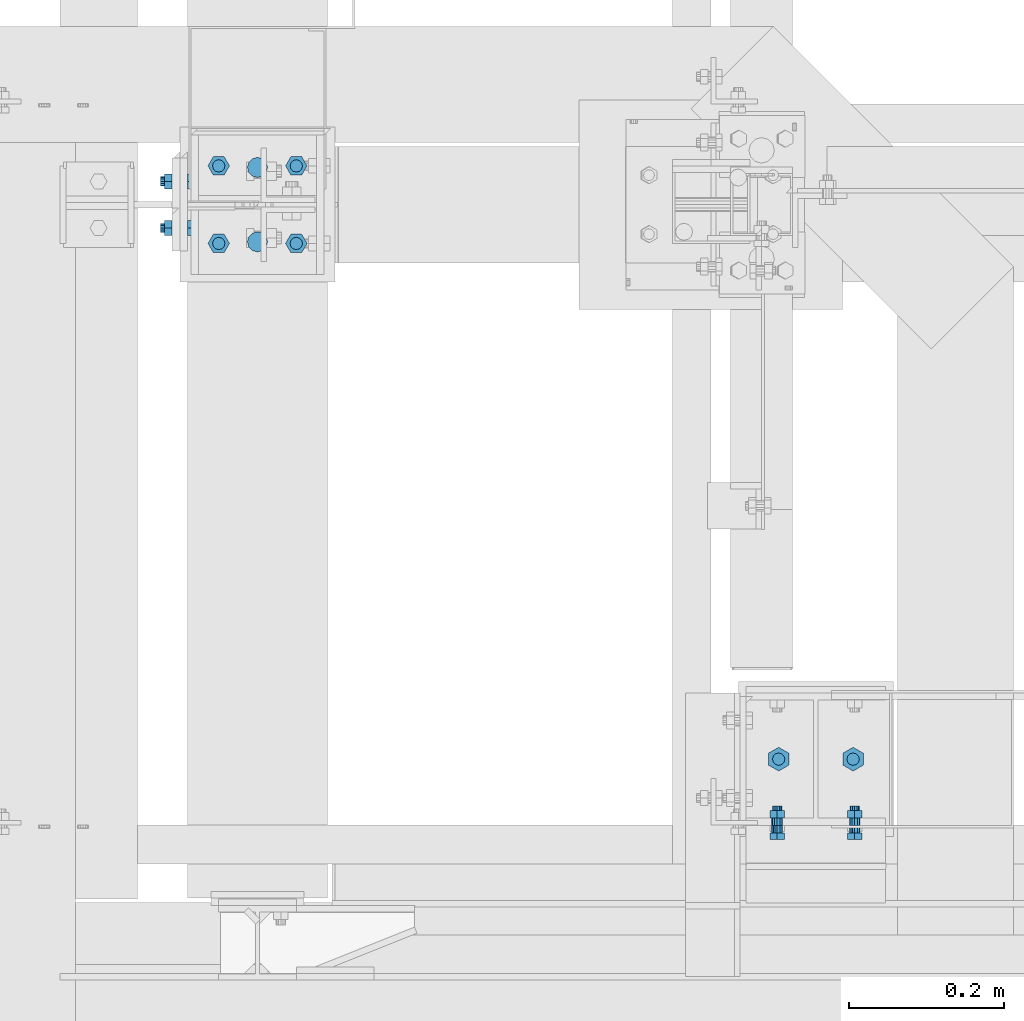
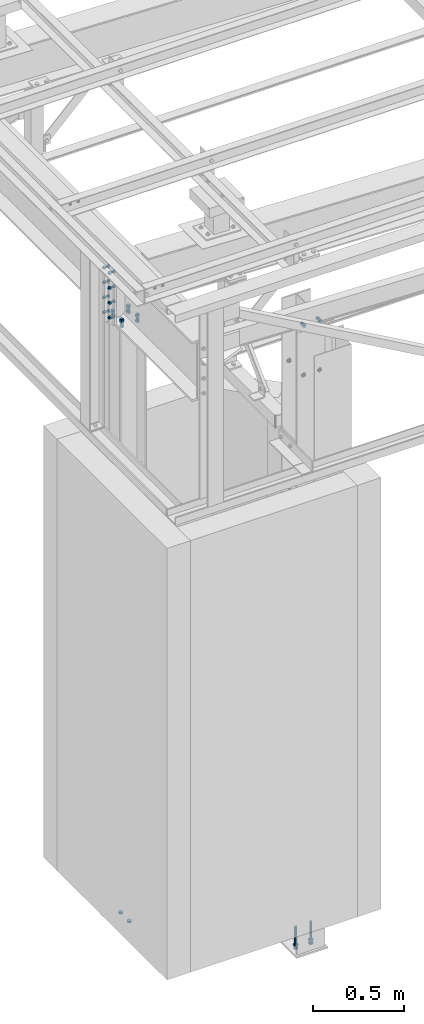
# One storey, part 2 of 3134: 5 mechanical fasteners, 3 elements without a shape of their own.
"""IFC2X3 building model written with IfcOpenShell, lengths in millimetres."""

from ifc_helpers import new_model, si_unit, frame, origin_with_axes, place, context, subcontext, project, spatial, faceted_brep, source, transform, mapped, material, type_object, element, aggregate, save


model = new_model("IFC2X3")

# Units and contexts
model_context = context("Model", 3, precision=1e-05, world=origin_with_axes())
body_context = subcontext(model_context, "Body", "Model", "MODEL_VIEW")
ifc_project = project(units=[si_unit("LENGTHUNIT", "METRE", prefix="MILLI"), si_unit("AREAUNIT", "SQUARE_METRE"), si_unit("VOLUMEUNIT", "CUBIC_METRE"), si_unit("MASSUNIT", "GRAM", prefix="KILO"), si_unit("TIMEUNIT", "SECOND"), si_unit("PLANEANGLEUNIT", "RADIAN"), si_unit("SOLIDANGLEUNIT", "STERADIAN"), si_unit("THERMODYNAMICTEMPERATUREUNIT", "DEGREE_CELSIUS"), si_unit("LUMINOUSINTENSITYUNIT", "LUMEN")], contexts=[model_context])

# Site, building, storey
site_placement = place(None, origin_with_axes())
site = spatial("IfcSite", under=ifc_project, at=site_placement, CompositionType="ELEMENT")
building_placement = place(site_placement, origin_with_axes())
building = spatial("IfcBuilding", under=site, at=building_placement, Name="Undefined", CompositionType="ELEMENT")
storey_placement = place(building_placement, origin_with_axes())
storey = spatial("IfcBuildingStorey", under=building, at=storey_placement, Name="Undefined", CompositionType="ELEMENT", Elevation=0.0)

# Assembly, mechanical fastener
assembly_1_placement = place(storey_placement, origin_with_axes())
assembly_1 = element("IfcElementAssembly", 1, at=assembly_1_placement, inside=storey, Name="HEA180", AssemblyPlace="NOTDEFINED", PredefinedType="RIGID_FRAME")
ifc_material_1 = material(Name="8.8")
mechanical_fastener_type = type_object("IfcMechanicalFastenerType", Name="Bolt assembly")
shared_shape_1 = source(origin_with_axes(), body_context, "Body", "Brep", [
    faceted_brep([(13.0, 0.0, 0.0), (11.2583302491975, 0.0, 6.50000000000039), (6.49999999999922, 0.0, 11.2583302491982), (-1.34723677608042e-12, 0.0, 13.0), (-6.50000000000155, 0.0, 11.2583302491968), (-11.2583302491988, 0.0, 6.49999999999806), (-13.0, 0.0, -2.69447355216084e-12), (-11.2583302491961, 0.0, -6.50000000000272), (-6.4999999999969, 0.0, -11.2583302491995), (4.02727742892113e-12, 0.0, -13.0), (6.50000000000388, 0.0, -11.2583302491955), (11.2583302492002, 0.0, -6.49999999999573), (11.2583302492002, 12.1, -6.49999999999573), (6.50000000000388, 12.1, -11.2583302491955), (4.02727742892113e-12, 12.1, -13.0), (-6.4999999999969, 12.1, -11.2583302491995), (-11.2583302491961, 12.1, -6.50000000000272), (-13.0, 12.1, -2.69447355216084e-12), (-11.2583302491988, 12.1, 6.49999999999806), (-6.50000000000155, 12.1, 11.2583302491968), (-1.34723677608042e-12, 12.1, 13.0), (6.49999999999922, 12.1, 11.2583302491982), (11.2583302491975, 12.1, 6.50000000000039), (13.0, 12.1, 0.0)], [[[0, 1, 2, 3, 4, 5, 6, 7, 8, 9, 10, 11]], [[12, 13, 14, 15, 16, 17, 18, 19, 20, 21, 22, 23]], [[0, 23, 22, 1]], [[1, 22, 21, 2]], [[2, 21, 20, 3]], [[3, 20, 19, 4]], [[4, 19, 18, 5]], [[5, 18, 17, 6]], [[6, 17, 16, 7]], [[7, 16, 15, 8]], [[8, 15, 14, 9]], [[9, 14, 13, 10]], [[10, 13, 12, 11]], [[11, 12, 23, 0]]]),
])
mechanical_fastener_1_placement = place(assembly_1_placement, frame((0.0, 10930.0, -400.0), z_axis=(0.0, 1.0, 0.0), x_axis=(-1.0, 0.0, 0.0)))
mechanical_fastener_1 = element("IfcMechanicalFastener", 2, at=mechanical_fastener_1_placement, type_object=mechanical_fastener_type, material=ifc_material_1, Name="Bolt assembly", NominalDiameter=24.0, NominalLength=12.0, context=body_context, shape_type="MappedRepresentation", body=[
    mapped(shared_shape_1, transform((0.0, 0.0, -48.0))),
    mapped(shared_shape_1, transform((0.0, 0.0, 48.0))),
])

assembly_2_placement = place(storey_placement, origin_with_axes())
assembly_2 = element("IfcElementAssembly", 3, at=assembly_2_placement, inside=storey, Name="HEA180", AssemblyPlace="NOTDEFINED", PredefinedType="RIGID_FRAME")
shared_shape_2 = source(origin_with_axes(), body_context, "Body", "Brep", [
    faceted_brep([(10.9696551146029, -18.0, 0.0), (5.48482755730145, -18.0, 9.5), (-5.48482755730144, -18.0, 9.5), (-10.9696551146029, -18.0, 1.34339530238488e-15), (-5.48482755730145, -18.0, -9.5), (5.48482755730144, -18.0, -9.50000000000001), (5.48482755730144, -10.0, -9.50000000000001), (-5.48482755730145, -10.0, -9.5), (-10.9696551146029, -10.0, 1.34339530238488e-15), (-5.48482755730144, -10.0, 9.5), (5.48482755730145, -10.0, 9.5), (10.9696551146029, -10.0, 0.0), (6.0, -10.0, 0.0), (5.19615242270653, -10.0, 3.00000000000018), (2.99999999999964, -10.0, 5.19615242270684), (-6.21801588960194e-13, -10.0, 6.0), (-3.00000000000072, -10.0, 5.19615242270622), (-5.19615242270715, -10.0, 2.9999999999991), (-6.0, -10.0, -1.24360317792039e-12), (-5.19615242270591, -10.0, -3.00000000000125), (-2.99999999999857, -10.0, -5.19615242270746), (1.85874342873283e-12, -10.0, -6.0), (3.00000000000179, -10.0, -5.1961524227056), (5.19615242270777, -10.0, -2.99999999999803), (5.19615242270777, 24.9999999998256, -2.99999999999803), (3.00000000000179, 24.9999999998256, -5.1961524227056), (1.85874342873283e-12, 24.9999999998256, -6.0), (-2.99999999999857, 24.9999999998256, -5.19615242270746), (-5.19615242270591, 24.9999999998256, -3.00000000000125), (-6.0, 24.9999999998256, -1.24360317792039e-12), (-5.19615242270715, 24.9999999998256, 2.9999999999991), (-3.00000000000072, 24.9999999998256, 5.19615242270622), (-6.21801588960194e-13, 24.9999999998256, 6.0), (2.99999999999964, 24.9999999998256, 5.19615242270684), (5.19615242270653, 24.9999999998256, 3.00000000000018), (6.0, 24.9999999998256, 0.0), (10.9696551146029, 9.5, 0.0), (5.48482755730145, 9.5, 9.5), (-5.48482755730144, 9.5, 9.5), (-10.9696551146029, 9.5, 1.34339530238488e-15), (-5.48482755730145, 9.5, -9.5), (5.48482755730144, 9.5, -9.50000000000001), (5.48482755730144, 19.5, -9.50000000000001), (-5.48482755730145, 19.5, -9.5), (-10.9696551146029, 19.5, 1.34339530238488e-15), (-5.48482755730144, 19.5, 9.5), (5.48482755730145, 19.5, 9.5), (10.9696551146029, 19.5, 0.0)], [[[0, 1, 2, 3, 4, 5]], [[6, 7, 8, 9, 10, 11]], [[0, 11, 10, 1]], [[1, 10, 9, 2]], [[2, 9, 8, 3]], [[3, 8, 7, 4]], [[4, 7, 6, 5]], [[5, 6, 11, 0]], [[12, 13, 14, 15, 16, 17, 18, 19, 20, 21, 22, 23]], [[24, 25, 26, 27, 28, 29, 30, 31, 32, 33, 34, 35]], [[12, 35, 34, 13]], [[13, 34, 33, 14]], [[14, 33, 32, 15]], [[15, 32, 31, 16]], [[16, 31, 30, 17]], [[17, 30, 29, 18]], [[18, 29, 28, 19]], [[19, 28, 27, 20]], [[20, 27, 26, 21]], [[21, 26, 25, 22]], [[22, 25, 24, 23]], [[23, 24, 35, 12]], [[36, 37, 38, 39, 40, 41]], [[42, 43, 44, 45, 46, 47]], [[36, 47, 46, 37]], [[37, 46, 45, 38]], [[38, 45, 44, 39]], [[39, 44, 43, 40]], [[40, 43, 42, 41]], [[41, 42, 47, 36]]]),
    faceted_brep([(14.0, -9.9, 0.0), (13.4671567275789, -9.9, 2.6787840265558), (11.9497474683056, -9.9, 4.94974746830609), (9.67878402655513, -9.9, 6.46715672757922), (-7.00000000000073, -9.9, 7.0), (-10.5000000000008, -9.9, 6.06217782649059), (-13.0621778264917, -9.9, 3.49999999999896), (-14.0, -9.9, -1.45087037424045e-12), (-13.0621778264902, -9.9, -3.50000000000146), (-10.4999999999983, -9.9, -6.06217782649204), (-6.99999999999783, -9.9, -7.0), (7.00000000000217, -9.9, -7.0), (10.5000000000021, -9.9, -6.06217782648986), (13.0621778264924, -9.9, -3.4999999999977), (14.0, 0.0999989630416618, 0.0), (13.0621778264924, 0.0999989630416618, -3.4999999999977), (10.5000000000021, 0.0999989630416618, -6.06217782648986), (7.00000000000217, 0.0999989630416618, -7.0), (-6.99999999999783, 0.0999989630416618, -7.0), (-10.4999999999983, 0.0999989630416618, -6.06217782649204), (-13.0621778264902, 0.0999989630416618, -3.50000000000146), (-14.0, 0.0999989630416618, -1.45087037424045e-12), (-13.0621778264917, 0.0999989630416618, 3.49999999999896), (-10.5000000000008, 0.0999989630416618, 6.06217782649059), (-7.00000000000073, 0.0999989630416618, 7.0), (9.67878402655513, 0.0999989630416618, 6.46715672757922), (11.9497474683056, 0.0999989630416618, 4.94974746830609), (13.4671567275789, 0.0999989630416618, 2.6787840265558), (7.0, -0.1, 0.0), (6.06217782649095, -0.1, 3.50000000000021), (3.49999999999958, -0.1, 6.06217782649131), (-7.25435187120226e-13, -0.1, 7.0), (-3.50000000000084, -0.1, 6.06217782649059), (-6.06217782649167, -0.1, 3.49999999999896), (-7.0, -0.1, -1.45087037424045e-12), (-6.06217782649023, -0.1, -3.50000000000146), (-3.49999999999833, -0.1, -6.06217782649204), (2.1685340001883e-12, -0.1, -7.0), (3.50000000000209, -0.1, -6.06217782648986), (6.0621778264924, -0.1, -3.4999999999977), (6.0621778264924, 9.5, -3.4999999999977), (3.50000000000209, 9.5, -6.06217782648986), (2.1685340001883e-12, 9.5, -7.0), (-3.49999999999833, 9.5, -6.06217782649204), (-6.06217782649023, 9.5, -3.50000000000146), (-7.0, 9.5, -1.45087037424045e-12), (-6.06217782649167, 9.5, 3.49999999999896), (-3.50000000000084, 9.5, 6.06217782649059), (-7.25435187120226e-13, 9.5, 7.0), (3.49999999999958, 9.5, 6.06217782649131), (6.06217782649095, 9.5, 3.50000000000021), (7.0, 9.5, 0.0)], [[[0, 1, 2, 3, 4, 5, 6, 7, 8, 9, 10, 11, 12, 13]], [[14, 15, 16, 17, 18, 19, 20, 21, 22, 23, 24, 25, 26, 27]], [[0, 14, 27, 1]], [[1, 27, 26, 2]], [[2, 26, 25, 3]], [[3, 25, 24, 4]], [[4, 24, 23, 5]], [[5, 23, 22, 6]], [[6, 22, 21, 7]], [[7, 21, 20, 8]], [[8, 20, 19, 9]], [[9, 19, 18, 10]], [[10, 18, 17, 11]], [[11, 17, 16, 12]], [[12, 16, 15, 13]], [[13, 15, 14, 0]], [[28, 29, 30, 31, 32, 33, 34, 35, 36, 37, 38, 39]], [[40, 41, 42, 43, 44, 45, 46, 47, 48, 49, 50, 51]], [[28, 51, 50, 29]], [[29, 50, 49, 30]], [[30, 49, 48, 31]], [[31, 48, 47, 32]], [[32, 47, 46, 33]], [[33, 46, 45, 34]], [[34, 45, 44, 35]], [[35, 44, 43, 36]], [[36, 43, 42, 37]], [[37, 42, 41, 38]], [[38, 41, 40, 39]], [[39, 40, 51, 28]]]),
])
mechanical_fastener_2_placement = place(assembly_2_placement, frame((720.0, 10129.5, 3834.68519646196), z_axis=(-1.0, 0.0, 0.0), x_axis=(0.0, 0.0, 1.0)))
mechanical_fastener_2 = element("IfcMechanicalFastener", 4, at=mechanical_fastener_2_placement, type_object=mechanical_fastener_type, material=ifc_material_1, Name="Bolt assembly", NominalDiameter=12.0, NominalLength=35.0, context=body_context, shape_type="MappedRepresentation", body=[
    mapped(shared_shape_2, transform((0.0, 0.0, -50.0))),
    mapped(shared_shape_2, transform((0.0, 0.0, 50.0))),
])

assembly_3_placement = place(storey_placement, origin_with_axes())
assembly_3 = element("IfcElementAssembly", 5, at=assembly_3_placement, inside=storey, Name="IPE400", AssemblyPlace="NOTDEFINED", PredefinedType="RIGID_FRAME")
shared_shape_3 = source(origin_with_axes(), body_context, "Body", "Brep", [
    faceted_brep([(10.9696551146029, -18.0, 0.0), (5.48482755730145, -18.0, 9.5), (-5.48482755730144, -18.0, 9.5), (-10.9696551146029, -18.0, 1.34339530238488e-15), (-5.48482755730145, -18.0, -9.5), (5.48482755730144, -18.0, -9.50000000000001), (5.48482755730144, -10.0, -9.50000000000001), (-5.48482755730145, -10.0, -9.5), (-10.9696551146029, -10.0, 1.34339530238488e-15), (-5.48482755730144, -10.0, 9.5), (5.48482755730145, -10.0, 9.5), (10.9696551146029, -10.0, 0.0), (6.0, -10.0, 0.0), (5.19615242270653, -10.0, 3.00000000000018), (2.99999999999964, -10.0, 5.19615242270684), (-6.21801588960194e-13, -10.0, 6.0), (-3.00000000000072, -10.0, 5.19615242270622), (-5.19615242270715, -10.0, 2.9999999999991), (-6.0, -10.0, -1.24360317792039e-12), (-5.19615242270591, -10.0, -3.00000000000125), (-2.99999999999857, -10.0, -5.19615242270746), (1.85874342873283e-12, -10.0, -6.0), (3.00000000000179, -10.0, -5.1961524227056), (5.19615242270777, -10.0, -2.99999999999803), (5.19615242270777, 24.9999999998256, -2.99999999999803), (3.00000000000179, 24.9999999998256, -5.1961524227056), (1.85874342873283e-12, 24.9999999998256, -6.0), (-2.99999999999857, 24.9999999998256, -5.19615242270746), (-5.19615242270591, 24.9999999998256, -3.00000000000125), (-6.0, 24.9999999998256, -1.24360317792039e-12), (-5.19615242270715, 24.9999999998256, 2.9999999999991), (-3.00000000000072, 24.9999999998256, 5.19615242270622), (-6.21801588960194e-13, 24.9999999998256, 6.0), (2.99999999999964, 24.9999999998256, 5.19615242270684), (5.19615242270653, 24.9999999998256, 3.00000000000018), (6.0, 24.9999999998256, 0.0), (10.9696551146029, 10.0, 0.0), (5.48482755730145, 10.0, 9.5), (-5.48482755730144, 10.0, 9.5), (-10.9696551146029, 10.0, 1.34339530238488e-15), (-5.48482755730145, 10.0, -9.5), (5.48482755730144, 10.0, -9.50000000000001), (5.48482755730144, 20.0, -9.50000000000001), (-5.48482755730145, 20.0, -9.5), (-10.9696551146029, 20.0, 1.34339530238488e-15), (-5.48482755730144, 20.0, 9.5), (5.48482755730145, 20.0, 9.5), (10.9696551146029, 20.0, 0.0)], [[[0, 1, 2, 3, 4, 5]], [[6, 7, 8, 9, 10, 11]], [[0, 11, 10, 1]], [[1, 10, 9, 2]], [[2, 9, 8, 3]], [[3, 8, 7, 4]], [[4, 7, 6, 5]], [[5, 6, 11, 0]], [[12, 13, 14, 15, 16, 17, 18, 19, 20, 21, 22, 23]], [[24, 25, 26, 27, 28, 29, 30, 31, 32, 33, 34, 35]], [[12, 35, 34, 13]], [[13, 34, 33, 14]], [[14, 33, 32, 15]], [[15, 32, 31, 16]], [[16, 31, 30, 17]], [[17, 30, 29, 18]], [[18, 29, 28, 19]], [[19, 28, 27, 20]], [[20, 27, 26, 21]], [[21, 26, 25, 22]], [[22, 25, 24, 23]], [[23, 24, 35, 12]], [[36, 37, 38, 39, 40, 41]], [[42, 43, 44, 45, 46, 47]], [[36, 47, 46, 37]], [[37, 46, 45, 38]], [[38, 45, 44, 39]], [[39, 44, 43, 40]], [[40, 43, 42, 41]], [[41, 42, 47, 36]]]),
    faceted_brep([(7.0, -0.1, 0.0), (6.06217782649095, -0.1, 3.50000000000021), (3.49999999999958, -0.1, 6.06217782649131), (-7.25435187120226e-13, -0.1, 7.0), (-3.50000000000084, -0.1, 6.06217782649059), (-6.06217782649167, -0.1, 3.49999999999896), (-7.0, -0.1, -1.45087037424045e-12), (-6.06217782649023, -0.1, -3.50000000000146), (-3.49999999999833, -0.1, -6.06217782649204), (2.1685340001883e-12, -0.1, -7.0), (3.50000000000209, -0.1, -6.06217782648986), (6.0621778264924, -0.1, -3.4999999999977), (6.0621778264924, 10.0, -3.4999999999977), (3.50000000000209, 10.0, -6.06217782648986), (2.1685340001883e-12, 10.0, -7.0), (-3.49999999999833, 10.0, -6.06217782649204), (-6.06217782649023, 10.0, -3.50000000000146), (-7.0, 10.0, -1.45087037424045e-12), (-6.06217782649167, 10.0, 3.49999999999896), (-3.50000000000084, 10.0, 6.06217782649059), (-7.25435187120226e-13, 10.0, 7.0), (3.49999999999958, 10.0, 6.06217782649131), (6.06217782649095, 10.0, 3.50000000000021), (7.0, 10.0, 0.0), (7.0, -9.89999913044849, 0.0), (6.06217782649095, -9.89999913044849, 3.50000000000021), (3.49999999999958, -9.89999913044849, 6.06217782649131), (-7.25435187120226e-13, -9.89999913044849, 7.0), (-3.50000000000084, -9.89999913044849, 6.06217782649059), (-6.06217782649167, -9.89999913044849, 3.49999999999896), (-7.0, -9.89999913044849, -1.45087037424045e-12), (-6.06217782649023, -9.89999913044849, -3.50000000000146), (-3.49999999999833, -9.89999913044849, -6.06217782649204), (2.1685340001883e-12, -9.89999913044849, -7.0), (3.50000000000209, -9.89999913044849, -6.06217782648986), (6.0621778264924, -9.89999913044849, -3.4999999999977), (6.0621778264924, 0.0999999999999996, -3.4999999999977), (3.50000000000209, 0.0999999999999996, -6.06217782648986), (2.1685340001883e-12, 0.0999999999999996, -7.0), (-3.49999999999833, 0.0999999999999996, -6.06217782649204), (-6.06217782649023, 0.0999999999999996, -3.50000000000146), (-7.0, 0.0999999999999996, -1.45087037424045e-12), (-6.06217782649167, 0.0999999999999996, 3.49999999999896), (-3.50000000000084, 0.0999999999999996, 6.06217782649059), (-7.25435187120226e-13, 0.0999999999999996, 7.0), (3.49999999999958, 0.0999999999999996, 6.06217782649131), (6.06217782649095, 0.0999999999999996, 3.50000000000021), (7.0, 0.0999999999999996, 0.0)], [[[0, 1, 2, 3, 4, 5, 6, 7, 8, 9, 10, 11]], [[12, 13, 14, 15, 16, 17, 18, 19, 20, 21, 22, 23]], [[0, 23, 22, 1]], [[1, 22, 21, 2]], [[2, 21, 20, 3]], [[3, 20, 19, 4]], [[4, 19, 18, 5]], [[5, 18, 17, 6]], [[6, 17, 16, 7]], [[7, 16, 15, 8]], [[8, 15, 14, 9]], [[9, 14, 13, 10]], [[10, 13, 12, 11]], [[11, 12, 23, 0]], [[24, 25, 26, 27, 28, 29, 30, 31, 32, 33, 34, 35]], [[36, 37, 38, 39, 40, 41, 42, 43, 44, 45, 46, 47]], [[24, 47, 46, 25]], [[25, 46, 45, 26]], [[26, 45, 44, 27]], [[27, 44, 43, 28]], [[28, 43, 42, 29]], [[29, 42, 41, 30]], [[30, 41, 40, 31]], [[31, 40, 39, 32]], [[32, 39, 38, 33]], [[33, 38, 37, 34]], [[34, 37, 36, 35]], [[35, 36, 47, 24]]]),
])
mechanical_fastener_3_placement = place(assembly_3_placement, frame((-100.0, 10930.0, 3990.0), z_axis=(0.0, 1.0, 0.0), x_axis=(0.0, 0.0, -1.0)))
mechanical_fastener_3 = element("IfcMechanicalFastener", 6, at=mechanical_fastener_3_placement, type_object=mechanical_fastener_type, material=ifc_material_1, Name="Bolt assembly", NominalDiameter=12.0, NominalLength=35.0, context=body_context, shape_type="MappedRepresentation", body=[
    mapped(shared_shape_3, transform((0.0, 4.54747350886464e-13, -30.0000000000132))),
    mapped(shared_shape_3, transform((100.0, 0.0, -30.0))),
    mapped(shared_shape_3, transform((200.0, 0.0, -30.0))),
    mapped(shared_shape_3, transform((300.0, 0.0, -30.0))),
    mapped(shared_shape_3, transform((0.0, 4.54747350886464e-13, 30.0000000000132))),
    mapped(shared_shape_3, transform((100.0, 0.0, 30.0))),
    mapped(shared_shape_3, transform((200.0, 0.0, 30.0))),
    mapped(shared_shape_3, transform((300.0, 0.0, 30.0))),
])
aggregate(assembly_3, [mechanical_fastener_3])

# Mechanical fastener
shared_shape_4 = source(origin_with_axes(), body_context, "Body", "Brep", [
    faceted_brep([(13.856406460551, -10.0, 0.0), (6.92820323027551, -10.0, 12.0), (-6.92820323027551, -10.0, 12.0), (-13.856406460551, -10.0, 1.69692038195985e-15), (-6.92820323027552, -10.0, -12.0), (6.9282032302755, -10.0, -12.0), (6.9282032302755, 0.0, -12.0), (-6.92820323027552, 0.0, -12.0), (-13.856406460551, 0.0, 1.69692038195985e-15), (-6.92820323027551, 0.0, 12.0), (6.92820323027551, 0.0, 12.0), (13.856406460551, 0.0, 0.0), (8.0, 0.0, 0.0), (6.92820323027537, 0.0, 4.00000000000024), (3.99999999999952, 0.0, 6.92820323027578), (-8.29068785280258e-13, 0.0, 8.0), (-4.00000000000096, 0.0, 6.92820323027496), (-6.9282032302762, 0.0, 3.99999999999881), (-8.0, 0.0, -1.65813757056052e-12), (-6.92820323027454, 0.0, -4.00000000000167), (-3.99999999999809, 0.0, -6.92820323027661), (2.47832457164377e-12, 0.0, -8.0), (4.00000000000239, 0.0, -6.92820323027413), (6.92820323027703, 0.0, -3.99999999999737), (6.92820323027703, 45.0, -3.99999999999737), (4.00000000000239, 45.0, -6.92820323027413), (2.47832457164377e-12, 45.0, -8.0), (-3.99999999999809, 45.0, -6.92820323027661), (-6.92820323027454, 45.0, -4.00000000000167), (-8.0, 45.0, -1.65813757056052e-12), (-6.9282032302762, 45.0, 3.99999999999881), (-4.00000000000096, 45.0, 6.92820323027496), (-8.29068785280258e-13, 45.0, 8.0), (3.99999999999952, 45.0, 6.92820323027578), (6.92820323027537, 45.0, 4.00000000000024), (8.0, 45.0, 0.0), (13.856406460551, 25.5, 0.0), (6.92820323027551, 25.5, 12.0), (-6.92820323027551, 25.5, 12.0), (-13.856406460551, 25.5, 1.69692038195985e-15), (-6.92820323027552, 25.5, -12.0), (6.9282032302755, 25.5, -12.0), (6.9282032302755, 38.5, -12.0), (-6.92820323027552, 38.5, -12.0), (-13.856406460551, 38.5, 1.69692038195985e-15), (-6.92820323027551, 38.5, 12.0), (6.92820323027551, 38.5, 12.0), (13.856406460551, 38.5, 0.0)], [[[0, 1, 2, 3, 4, 5]], [[6, 7, 8, 9, 10, 11]], [[0, 11, 10, 1]], [[1, 10, 9, 2]], [[2, 9, 8, 3]], [[3, 8, 7, 4]], [[4, 7, 6, 5]], [[5, 6, 11, 0]], [[12, 13, 14, 15, 16, 17, 18, 19, 20, 21, 22, 23]], [[24, 25, 26, 27, 28, 29, 30, 31, 32, 33, 34, 35]], [[12, 35, 34, 13]], [[13, 34, 33, 14]], [[14, 33, 32, 15]], [[15, 32, 31, 16]], [[16, 31, 30, 17]], [[17, 30, 29, 18]], [[18, 29, 28, 19]], [[19, 28, 27, 20]], [[20, 27, 26, 21]], [[21, 26, 25, 22]], [[22, 25, 24, 23]], [[23, 24, 35, 12]], [[36, 37, 38, 39, 40, 41]], [[42, 43, 44, 45, 46, 47]], [[36, 47, 46, 37]], [[37, 46, 45, 38]], [[38, 45, 44, 39]], [[39, 44, 43, 40]], [[40, 43, 42, 41]], [[41, 42, 47, 36]]]),
    faceted_brep([(9.0, 11.9, 0.0), (7.79422863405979, 11.9, 4.50000000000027), (4.49999999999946, 11.9, 7.79422863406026), (-9.3270238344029e-13, 11.9, 9.0), (-4.50000000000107, 11.9, 7.79422863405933), (-7.79422863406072, 11.9, 4.49999999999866), (-9.0, 11.9, -1.86540476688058e-12), (-7.79422863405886, 11.9, -4.50000000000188), (-4.49999999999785, 11.9, -7.79422863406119), (2.78811514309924e-12, 11.9, -9.0), (4.50000000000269, 11.9, -7.7942286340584), (7.79422863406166, 11.9, -4.49999999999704), (7.79422863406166, 25.5, -4.49999999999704), (4.50000000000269, 25.5, -7.7942286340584), (2.78811514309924e-12, 25.5, -9.0), (-4.49999999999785, 25.5, -7.79422863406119), (-7.79422863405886, 25.5, -4.50000000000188), (-9.0, 25.5, -1.86540476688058e-12), (-7.79422863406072, 25.5, 4.49999999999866), (-4.50000000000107, 25.5, 7.79422863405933), (-9.3270238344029e-13, 25.5, 9.0), (4.49999999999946, 25.5, 7.79422863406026), (7.79422863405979, 25.5, 4.50000000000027), (9.0, 25.5, 0.0), (9.0, 0.100000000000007, 0.0), (7.79422863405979, 0.100000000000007, 4.50000000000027), (4.49999999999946, 0.100000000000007, 7.79422863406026), (-9.3270238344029e-13, 0.100000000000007, 9.0), (-4.50000000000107, 0.100000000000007, 7.79422863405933), (-7.79422863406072, 0.100000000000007, 4.49999999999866), (-9.0, 0.100000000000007, -1.86540476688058e-12), (-7.79422863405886, 0.100000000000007, -4.50000000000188), (-4.49999999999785, 0.100000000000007, -7.79422863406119), (2.78811514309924e-12, 0.100000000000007, -9.0), (4.50000000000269, 0.100000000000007, -7.7942286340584), (7.79422863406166, 0.100000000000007, -4.49999999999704), (7.79422863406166, 12.1, -4.49999999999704), (4.50000000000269, 12.1, -7.7942286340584), (2.78811514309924e-12, 12.1, -9.0), (-4.49999999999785, 12.1, -7.79422863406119), (-7.79422863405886, 12.1, -4.50000000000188), (-9.0, 12.1, -1.86540476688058e-12), (-7.79422863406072, 12.1, 4.49999999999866), (-4.50000000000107, 12.1, 7.79422863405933), (-9.3270238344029e-13, 12.1, 9.0), (4.49999999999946, 12.1, 7.79422863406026), (7.79422863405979, 12.1, 4.50000000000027), (9.0, 12.1, 0.0)], [[[0, 1, 2, 3, 4, 5, 6, 7, 8, 9, 10, 11]], [[12, 13, 14, 15, 16, 17, 18, 19, 20, 21, 22, 23]], [[0, 23, 22, 1]], [[1, 22, 21, 2]], [[2, 21, 20, 3]], [[3, 20, 19, 4]], [[4, 19, 18, 5]], [[5, 18, 17, 6]], [[6, 17, 16, 7]], [[7, 16, 15, 8]], [[8, 15, 14, 9]], [[9, 14, 13, 10]], [[10, 13, 12, 11]], [[11, 12, 23, 0]], [[24, 25, 26, 27, 28, 29, 30, 31, 32, 33, 34, 35]], [[36, 37, 38, 39, 40, 41, 42, 43, 44, 45, 46, 47]], [[24, 47, 46, 25]], [[25, 46, 45, 26]], [[26, 45, 44, 27]], [[27, 44, 43, 28]], [[28, 43, 42, 29]], [[29, 42, 41, 30]], [[30, 41, 40, 31]], [[31, 40, 39, 32]], [[32, 39, 38, 33]], [[33, 38, 37, 34]], [[34, 37, 36, 35]], [[35, 36, 47, 24]]]),
])
mechanical_fastener_4_placement = place(assembly_1_placement, frame((50.0, 10930.0, 3628.0), z_axis=(0.0, 1.0, 0.0), x_axis=(-1.0, 0.0, 0.0)))
mechanical_fastener_4 = element("IfcMechanicalFastener", 7, at=mechanical_fastener_4_placement, type_object=mechanical_fastener_type, material=ifc_material_1, Name="Bolt assembly", NominalDiameter=16.0, NominalLength=45.0, context=body_context, shape_type="MappedRepresentation", body=[
    mapped(shared_shape_4, transform((0.0, 0.0, -50.0))),
    mapped(shared_shape_4, transform((100.0, 0.0, -50.0))),
    mapped(shared_shape_4, transform((0.0, 0.0, 50.0))),
    mapped(shared_shape_4, transform((100.0, 0.0, 50.0))),
])

aggregate(assembly_1, [mechanical_fastener_4, mechanical_fastener_1])

ifc_material_2 = material(Name="HILTI-HSA")
shared_shape_5 = source(origin_with_axes(), body_context, "Body", "Brep", [
    faceted_brep([(13.856406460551, -10.56, 0.0), (6.92820323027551, -10.56, 12.0), (-6.92820323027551, -10.56, 12.0), (-13.856406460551, -10.56, 1.69692038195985e-15), (-6.92820323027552, -10.56, -12.0), (6.9282032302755, -10.56, -12.0), (6.9282032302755, 0.0, -12.0), (-6.92820323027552, 0.0, -12.0), (-13.856406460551, 0.0, 1.69692038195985e-15), (-6.92820323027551, 0.0, 12.0), (6.92820323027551, 0.0, 12.0), (13.856406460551, 0.0, 0.0), (8.0, 0.0, 0.0), (6.92820323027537, 0.0, 4.00000000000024), (3.99999999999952, 0.0, 6.92820323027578), (-8.29068785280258e-13, 0.0, 8.0), (-4.00000000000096, 0.0, 6.92820323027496), (-6.9282032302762, 0.0, 3.99999999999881), (-8.0, 0.0, -1.65813757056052e-12), (-6.92820323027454, 0.0, -4.00000000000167), (-3.99999999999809, 0.0, -6.92820323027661), (2.47832457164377e-12, 0.0, -8.0), (4.00000000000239, 0.0, -6.92820323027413), (6.92820323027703, 0.0, -3.99999999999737), (6.92820323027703, 140.0, -3.99999999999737), (4.00000000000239, 140.0, -6.92820323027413), (2.47832457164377e-12, 140.0, -8.0), (-3.99999999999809, 140.0, -6.92820323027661), (-6.92820323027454, 140.0, -4.00000000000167), (-8.0, 140.0, -1.65813757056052e-12), (-6.9282032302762, 140.0, 3.99999999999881), (-4.00000000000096, 140.0, 6.92820323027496), (-8.29068785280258e-13, 140.0, 8.0), (3.99999999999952, 140.0, 6.92820323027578), (6.92820323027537, 140.0, 4.00000000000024), (8.0, 140.0, 0.0), (15.3344231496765, 12.0, 0.0), (7.66721157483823, 12.0, 13.28), (-7.66721157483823, 12.0, 13.28), (-15.3344231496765, 12.0, 1.87792522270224e-15), (-7.66721157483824, 12.0, -13.28), (7.66721157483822, 12.0, -13.28), (7.66721157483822, 22.56, -13.28), (-7.66721157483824, 22.56, -13.28), (-15.3344231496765, 22.56, 1.87792522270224e-15), (-7.66721157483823, 22.56, 13.28), (7.66721157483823, 22.56, 13.28), (15.3344231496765, 22.56, 0.0)], [[[0, 1, 2, 3, 4, 5]], [[6, 7, 8, 9, 10, 11]], [[0, 11, 10, 1]], [[1, 10, 9, 2]], [[2, 9, 8, 3]], [[3, 8, 7, 4]], [[4, 7, 6, 5]], [[5, 6, 11, 0]], [[12, 13, 14, 15, 16, 17, 18, 19, 20, 21, 22, 23]], [[24, 25, 26, 27, 28, 29, 30, 31, 32, 33, 34, 35]], [[12, 35, 34, 13]], [[13, 34, 33, 14]], [[14, 33, 32, 15]], [[15, 32, 31, 16]], [[16, 31, 30, 17]], [[17, 30, 29, 18]], [[18, 29, 28, 19]], [[19, 28, 27, 20]], [[20, 27, 26, 21]], [[21, 26, 25, 22]], [[22, 25, 24, 23]], [[23, 24, 35, 12]], [[36, 37, 38, 39, 40, 41]], [[42, 43, 44, 45, 46, 47]], [[36, 47, 46, 37]], [[37, 46, 45, 38]], [[38, 45, 44, 39]], [[39, 44, 43, 40]], [[40, 43, 42, 41]], [[41, 42, 47, 36]]]),
    faceted_brep([(9.0, -3.46568413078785e-07, 0.0), (7.79422863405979, -3.46568413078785e-07, 4.50000000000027), (4.49999999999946, -3.46568413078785e-07, 7.79422863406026), (-9.3270238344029e-13, -3.46568413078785e-07, 9.0), (-4.50000000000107, -3.46568413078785e-07, 7.79422863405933), (-7.79422863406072, -3.46568413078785e-07, 4.49999999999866), (-9.0, -3.46568413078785e-07, -1.86540476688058e-12), (-7.79422863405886, -3.46568413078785e-07, -4.50000000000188), (-4.49999999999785, -3.46568413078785e-07, -7.79422863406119), (2.78811514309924e-12, -3.46568413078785e-07, -9.0), (4.50000000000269, -3.46568413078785e-07, -7.7942286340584), (7.79422863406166, -3.46568413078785e-07, -4.49999999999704), (7.79422863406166, 12.1, -4.49999999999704), (4.50000000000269, 12.1, -7.7942286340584), (2.78811514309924e-12, 12.1, -9.0), (-4.49999999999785, 12.1, -7.79422863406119), (-7.79422863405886, 12.1, -4.50000000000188), (-9.0, 12.1, -1.86540476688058e-12), (-7.79422863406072, 12.1, 4.49999999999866), (-4.50000000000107, 12.1, 7.79422863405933), (-9.3270238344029e-13, 12.1, 9.0), (4.49999999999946, 12.1, 7.79422863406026), (7.79422863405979, 12.1, 4.50000000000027), (9.0, 12.1, 0.0)], [[[0, 1, 2, 3, 4, 5, 6, 7, 8, 9, 10, 11]], [[12, 13, 14, 15, 16, 17, 18, 19, 20, 21, 22, 23]], [[0, 23, 22, 1]], [[1, 22, 21, 2]], [[2, 21, 20, 3]], [[3, 20, 19, 4]], [[4, 19, 18, 5]], [[5, 18, 17, 6]], [[6, 17, 16, 7]], [[7, 16, 15, 8]], [[8, 15, 14, 9]], [[9, 14, 13, 10]], [[10, 13, 12, 11]], [[11, 12, 23, 0]]]),
])
mechanical_fastener_5_placement = place(assembly_2_placement, frame((720.0, 10215.0, -400.0), z_axis=(-1.0, 0.0, 0.0), x_axis=(0.0, -1.0, 0.0)))
mechanical_fastener_5 = element("IfcMechanicalFastener", 8, at=mechanical_fastener_5_placement, type_object=mechanical_fastener_type, material=ifc_material_2, Name="Bolt assembly", NominalDiameter=16.0, NominalLength=140.0, context=body_context, shape_type="MappedRepresentation", body=[
    mapped(shared_shape_5, transform((0.0, 0.0, -48.0))),
    mapped(shared_shape_5, transform((0.0, 0.0, 48.0))),
])

aggregate(assembly_2, [mechanical_fastener_2, mechanical_fastener_5])

save(model, "model.ifc")
